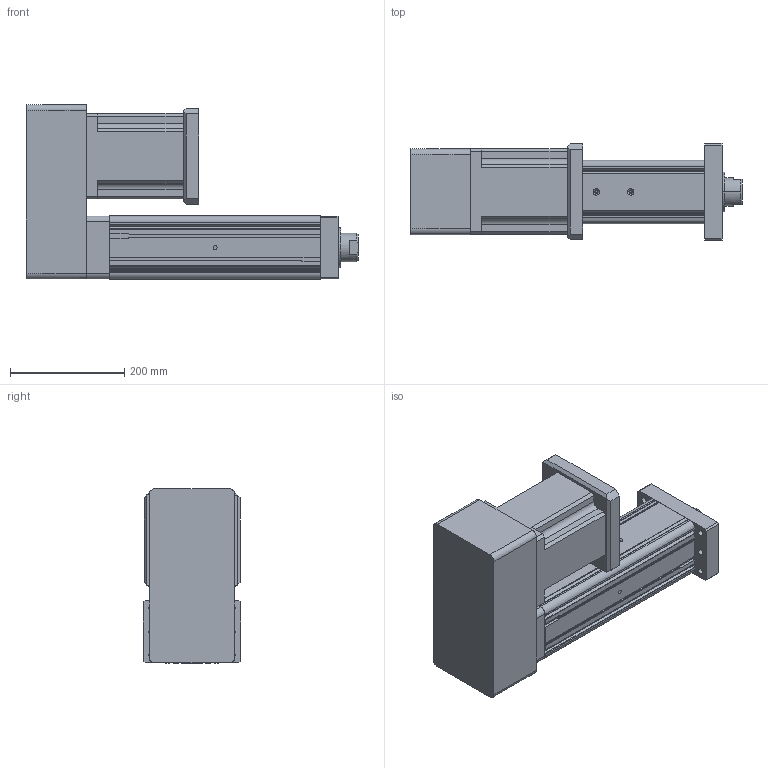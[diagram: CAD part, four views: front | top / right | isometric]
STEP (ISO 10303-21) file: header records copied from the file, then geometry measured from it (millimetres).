
FILE_DESCRIPTION (( 'STEP AP203' ), '1' );
FILE_NAME ('YRJ110-L200-H3K2.STEP', '2020-01-04T06:32:17', ( 'User' ), ( 'China' ), 'SwSTEP 2.0', 'SolidWorks 2016', '' );
FILE_SCHEMA (( 'CONFIG_CONTROL_DESIGN' ));
Length unit declared in the file: millimetre
Products named in the file (7): 095-100俴最倰第; H3-110-1; 萇儂碟-110; H3-110-2; 142熬厒儂; K2-110; YRJ110-L200-H3K2
Assembly tree (6 placements, depth 2):
  YRJ110-L200-H3K2
    095-100俴最倰第
    萇儂碟-110
    142熬厒儂
    H3-110-1
    H3-110-2
    K2-110
Bounding box: 581 x 170 x 305.5 mm (x, y, z)
Volume: 11470995.5 mm3; surface area: 827307.2 mm2
Topology: 6 solids, 6 shells, 306 faces, 850 edges, 549 vertices
Faces by surface type: plane 165, cylinder 114, cone 27
Entity records: 10786 total; most frequent: CARTESIAN_POINT 2038, DIRECTION 1685, ORIENTED_EDGE 1668, EDGE_CURVE 834, VECTOR 569, LINE 569, AXIS2_PLACEMENT_3D 558, VERTEX_POINT 549
